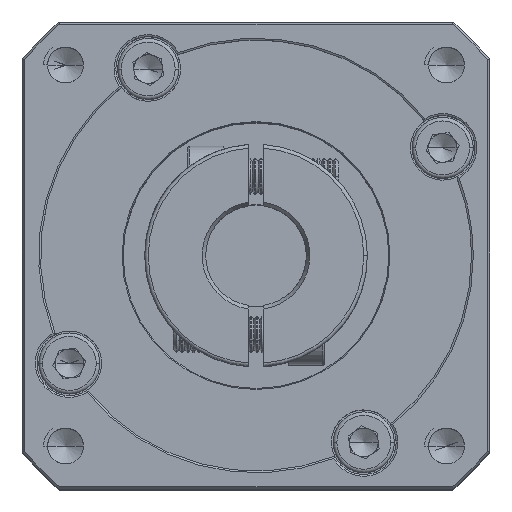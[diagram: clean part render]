
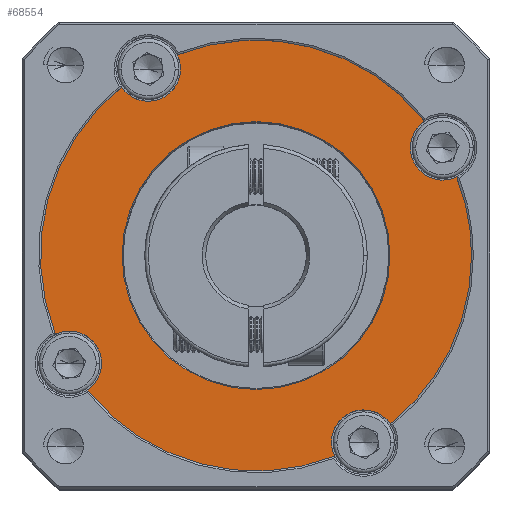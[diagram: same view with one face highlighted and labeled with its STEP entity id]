
A CAD part, top view. The second image highlights one B-rep face of the part: STEP entity #68554.
In plain terms, the highlighted planar face has unit normal (0, 0, 1).
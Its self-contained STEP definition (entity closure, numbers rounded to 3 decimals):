
#829 = CIRCLE ( 'NONE', #88762, 30. ) ;
#1698 = EDGE_CURVE ( 'NONE', #91455, #94459, #70367, .T. ) ;
#2006 = CARTESIAN_POINT ( 'NONE',  ( -67.445, 53.132, 14.19 ) ) ;
#2901 = CARTESIAN_POINT ( 'NONE',  ( -76.66, 18.742, 14.19 ) ) ;
#4590 = ORIENTED_EDGE ( 'NONE', *, *, #57421, .T. ) ;
#4762 = EDGE_CURVE ( 'NONE', #56428, #56409, #54104, .T. ) ;
#5382 = DIRECTION ( 'NONE',  ( 0., 0., 1. ) ) ;
#5398 = DIRECTION ( 'NONE',  ( 1., 0., 0. ) ) ;
#8452 = ORIENTED_EDGE ( 'NONE', *, *, #71568, .F. ) ;
#9630 = CARTESIAN_POINT ( 'NONE',  ( -48.728, 29.687, 14.19 ) ) ;
#10026 = CIRCLE ( 'NONE', #24055, 4.5 ) ;
#12870 = EDGE_CURVE ( 'NONE', #48569, #85669, #71940, .T. ) ;
#13440 = DIRECTION ( 'NONE',  ( 0., 0., 1. ) ) ;
#14942 = DIRECTION ( 'NONE',  ( 0., 0., 1. ) ) ;
#14996 = CARTESIAN_POINT ( 'NONE',  ( -27.247, 44.687, 14.19 ) ) ;
#15363 = CARTESIAN_POINT ( 'NONE',  ( -63.728, 55.668, 14.19 ) ) ;
#17691 = ORIENTED_EDGE ( 'NONE', *, *, #65999, .T. ) ;
#17844 = ORIENTED_EDGE ( 'NONE', *, *, #83152, .T. ) ;
#18188 = DIRECTION ( 'NONE',  ( 1., 0., 0. ) ) ;
#19008 = CIRCLE ( 'NONE', #30554, 30. ) ;
#19281 = CARTESIAN_POINT ( 'NONE',  ( -33.728, 3.707, 14.19 ) ) ;
#19478 = FACE_BOUND ( 'NONE', #58087, .T. ) ;
#19938 = CARTESIAN_POINT ( 'NONE',  ( -48.728, 29.687, 14.19 ) ) ;
#23233 = AXIS2_PLACEMENT_3D ( 'NONE', #23783, #82770, #32335 ) ;
#23482 = VERTEX_POINT ( 'NONE', #62293 ) ;
#23667 = ORIENTED_EDGE ( 'NONE', *, *, #4762, .T. ) ;
#23783 = CARTESIAN_POINT ( 'NONE',  ( -63.728, 55.668, 14.19 ) ) ;
#23804 = CARTESIAN_POINT ( 'NONE',  ( -48.728, 29.687, 14.19 ) ) ;
#23890 = DIRECTION ( 'NONE',  ( 1., 0., 0. ) ) ;
#24055 = AXIS2_PLACEMENT_3D ( 'NONE', #15363, #74471, #23890 ) ;
#24110 = CIRCLE ( 'NONE', #54556, 30. ) ;
#24113 = CARTESIAN_POINT ( 'NONE',  ( -48.728, 29.687, 14.19 ) ) ;
#25388 = EDGE_CURVE ( 'NONE', #85113, #91455, #26704, .T. ) ;
#26257 = AXIS2_PLACEMENT_3D ( 'NONE', #109075, #108475, #108370 ) ;
#26704 = CIRCLE ( 'NONE', #48336, 4.5 ) ;
#27378 = CARTESIAN_POINT ( 'NONE',  ( -48.728, 29.687, 14.19 ) ) ;
#27811 = DIRECTION ( 'NONE',  ( 1., 0., 0. ) ) ;
#28467 = DIRECTION ( 'NONE',  ( 1., 0., 0. ) ) ;
#30554 = AXIS2_PLACEMENT_3D ( 'NONE', #64110, #13440, #72558 ) ;
#31895 = AXIS2_PLACEMENT_3D ( 'NONE', #24113, #83103, #34168 ) ;
#32335 = DIRECTION ( 'NONE',  ( 1., 0., 0. ) ) ;
#32366 = DIRECTION ( 'NONE',  ( 1., 0., 0. ) ) ;
#32672 = VERTEX_POINT ( 'NONE', #2901 ) ;
#33565 = CIRCLE ( 'NONE', #35996, 4.5 ) ;
#34168 = DIRECTION ( 'NONE',  ( 1., 0., 0. ) ) ;
#35218 = AXIS2_PLACEMENT_3D ( 'NONE', #65584, #14942, #74066 ) ;
#35412 = AXIS2_PLACEMENT_3D ( 'NONE', #106452, #56163, #5398 ) ;
#35894 = DIRECTION ( 'NONE',  ( 1., 0., 0. ) ) ;
#35996 = AXIS2_PLACEMENT_3D ( 'NONE', #86962, #36513, #95370 ) ;
#36513 = DIRECTION ( 'NONE',  ( 0., 0., 1. ) ) ;
#39004 = CARTESIAN_POINT ( 'NONE',  ( -67.372, 29.687, 14.19 ) ) ;
#39849 = EDGE_CURVE ( 'NONE', #23482, #103019, #54451, .T. ) ;
#42868 = EDGE_CURVE ( 'NONE', #55501, #89789, #10026, .T. ) ;
#43431 = DIRECTION ( 'NONE',  ( 0., 0., 1. ) ) ;
#44313 = CIRCLE ( 'NONE', #23233, 4.5 ) ;
#45602 = ORIENTED_EDGE ( 'NONE', *, *, #97216, .T. ) ;
#46026 = CARTESIAN_POINT ( 'NONE',  ( -72.173, 10.97, 14.19 ) ) ;
#48336 = AXIS2_PLACEMENT_3D ( 'NONE', #56146, #5382, #64596 ) ;
#48569 = VERTEX_POINT ( 'NONE', #46026 ) ;
#48694 = EDGE_LOOP ( 'NONE', ( #99435, #59995, #8452, #96395, #4590, #60343, #67040, #55887, #17691, #101565, #106181, #45602, #48776 ) ) ;
#48776 = ORIENTED_EDGE ( 'NONE', *, *, #64594, .F. ) ;
#48994 = PLANE ( 'NONE',  #64827 ) ;
#51268 = CARTESIAN_POINT ( 'NONE',  ( -59.673, 57.62, 14.19 ) ) ;
#51371 = EDGE_CURVE ( 'NONE', #48569, #103119, #98057, .T. ) ;
#54104 = CIRCLE ( 'NONE', #107163, 18.644 ) ;
#54451 = CIRCLE ( 'NONE', #97280, 4.5 ) ;
#54556 = AXIS2_PLACEMENT_3D ( 'NONE', #19938, #78994, #28467 ) ;
#55501 = VERTEX_POINT ( 'NONE', #2006 ) ;
#55887 = ORIENTED_EDGE ( 'NONE', *, *, #25388, .F. ) ;
#56146 = CARTESIAN_POINT ( 'NONE',  ( -22.747, 44.687, 14.19 ) ) ;
#56163 = DIRECTION ( 'NONE',  ( 0., 0., 1. ) ) ;
#56409 = VERTEX_POINT ( 'NONE', #72563 ) ;
#56428 = VERTEX_POINT ( 'NONE', #39004 ) ;
#56527 = EDGE_CURVE ( 'NONE', #89789, #68169, #44313, .T. ) ;
#57421 = EDGE_CURVE ( 'NONE', #23482, #98411, #24110, .T. ) ;
#57480 = EDGE_CURVE ( 'NONE', #98411, #94459, #62434, .T. ) ;
#58087 = EDGE_LOOP ( 'NONE', ( #17844, #23667 ) ) ;
#59995 = ORIENTED_EDGE ( 'NONE', *, *, #51371, .T. ) ;
#60343 = ORIENTED_EDGE ( 'NONE', *, *, #57480, .T. ) ;
#60437 = CIRCLE ( 'NONE', #85518, 4.5 ) ;
#62293 = CARTESIAN_POINT ( 'NONE',  ( -30.01, 6.243, 14.19 ) ) ;
#62434 = CIRCLE ( 'NONE', #35412, 30. ) ;
#62971 = CARTESIAN_POINT ( 'NONE',  ( -59.228, 55.668, 14.19 ) ) ;
#64110 = CARTESIAN_POINT ( 'NONE',  ( -48.728, 29.687, 14.19 ) ) ;
#64594 = EDGE_CURVE ( 'NONE', #85669, #32672, #33565, .T. ) ;
#64596 = DIRECTION ( 'NONE',  ( 1., 0., 0. ) ) ;
#64827 = AXIS2_PLACEMENT_3D ( 'NONE', #23804, #82805, #32366 ) ;
#65584 = CARTESIAN_POINT ( 'NONE',  ( -74.709, 14.687, 14.19 ) ) ;
#65999 = EDGE_CURVE ( 'NONE', #85113, #68169, #19008, .T. ) ;
#67040 = ORIENTED_EDGE ( 'NONE', *, *, #1698, .F. ) ;
#68169 = VERTEX_POINT ( 'NONE', #51268 ) ;
#68554 = ADVANCED_FACE ( 'NONE', ( #19478, #106461 ), #48994, .T. ) ;
#68726 = DIRECTION ( 'NONE',  ( 1., 0., 0. ) ) ;
#68792 = DIRECTION ( 'NONE',  ( 0., 0., 1. ) ) ;
#68853 = DIRECTION ( 'NONE',  ( 0., 0., -1. ) ) ;
#68951 = CARTESIAN_POINT ( 'NONE',  ( -48.728, 29.687, 14.19 ) ) ;
#70321 = CIRCLE ( 'NONE', #85159, 18.644 ) ;
#70367 = CIRCLE ( 'NONE', #26257, 4.5 ) ;
#71568 = EDGE_CURVE ( 'NONE', #103019, #103119, #60437, .T. ) ;
#71940 = CIRCLE ( 'NONE', #35218, 4.5 ) ;
#72558 = DIRECTION ( 'NONE',  ( 1., 0., 0. ) ) ;
#72563 = CARTESIAN_POINT ( 'NONE',  ( -30.083, 29.687, 14.19 ) ) ;
#74066 = DIRECTION ( 'NONE',  ( 1., 0., 0. ) ) ;
#74471 = DIRECTION ( 'NONE',  ( 0., 0., 1. ) ) ;
#78319 = DIRECTION ( 'NONE',  ( 0., 0., 1. ) ) ;
#78994 = DIRECTION ( 'NONE',  ( 0., 0., 1. ) ) ;
#79478 = CARTESIAN_POINT ( 'NONE',  ( -70.209, 14.687, 14.19 ) ) ;
#82770 = DIRECTION ( 'NONE',  ( 0., 0., 1. ) ) ;
#82805 = DIRECTION ( 'NONE',  ( 0., 0., 1. ) ) ;
#83103 = DIRECTION ( 'NONE',  ( 0., 0., 1. ) ) ;
#83152 = EDGE_CURVE ( 'NONE', #56409, #56428, #70321, .T. ) ;
#84193 = CARTESIAN_POINT ( 'NONE',  ( -37.783, 1.755, 14.19 ) ) ;
#85113 = VERTEX_POINT ( 'NONE', #95334 ) ;
#85159 = AXIS2_PLACEMENT_3D ( 'NONE', #27378, #86307, #35894 ) ;
#85518 = AXIS2_PLACEMENT_3D ( 'NONE', #93733, #43431, #102151 ) ;
#85669 = VERTEX_POINT ( 'NONE', #79478 ) ;
#86307 = DIRECTION ( 'NONE',  ( 0., 0., -1. ) ) ;
#86962 = CARTESIAN_POINT ( 'NONE',  ( -74.709, 14.687, 14.19 ) ) ;
#88536 = CARTESIAN_POINT ( 'NONE',  ( -18.728, 29.687, 14.19 ) ) ;
#88762 = AXIS2_PLACEMENT_3D ( 'NONE', #9630, #68792, #18188 ) ;
#89789 = VERTEX_POINT ( 'NONE', #62971 ) ;
#91455 = VERTEX_POINT ( 'NONE', #14996 ) ;
#93733 = CARTESIAN_POINT ( 'NONE',  ( -33.728, 3.707, 14.19 ) ) ;
#94459 = VERTEX_POINT ( 'NONE', #97973 ) ;
#95334 = CARTESIAN_POINT ( 'NONE',  ( -25.283, 48.405, 14.19 ) ) ;
#95370 = DIRECTION ( 'NONE',  ( 1., 0., 0. ) ) ;
#96395 = ORIENTED_EDGE ( 'NONE', *, *, #39849, .F. ) ;
#97216 = EDGE_CURVE ( 'NONE', #55501, #32672, #829, .T. ) ;
#97280 = AXIS2_PLACEMENT_3D ( 'NONE', #19281, #78319, #27811 ) ;
#97973 = CARTESIAN_POINT ( 'NONE',  ( -20.796, 40.632, 14.19 ) ) ;
#98057 = CIRCLE ( 'NONE', #31895, 30. ) ;
#98411 = VERTEX_POINT ( 'NONE', #88536 ) ;
#99435 = ORIENTED_EDGE ( 'NONE', *, *, #12870, .F. ) ;
#101565 = ORIENTED_EDGE ( 'NONE', *, *, #56527, .F. ) ;
#102151 = DIRECTION ( 'NONE',  ( 1., 0., 0. ) ) ;
#103019 = VERTEX_POINT ( 'NONE', #107354 ) ;
#103119 = VERTEX_POINT ( 'NONE', #84193 ) ;
#106181 = ORIENTED_EDGE ( 'NONE', *, *, #42868, .F. ) ;
#106452 = CARTESIAN_POINT ( 'NONE',  ( -48.728, 29.687, 14.19 ) ) ;
#106461 = FACE_OUTER_BOUND ( 'NONE', #48694, .T. ) ;
#107163 = AXIS2_PLACEMENT_3D ( 'NONE', #68951, #68853, #68726 ) ;
#107354 = CARTESIAN_POINT ( 'NONE',  ( -38.228, 3.707, 14.19 ) ) ;
#108370 = DIRECTION ( 'NONE',  ( 1., 0., 0. ) ) ;
#108475 = DIRECTION ( 'NONE',  ( 0., 0., 1. ) ) ;
#109075 = CARTESIAN_POINT ( 'NONE',  ( -22.747, 44.687, 14.19 ) ) ;
